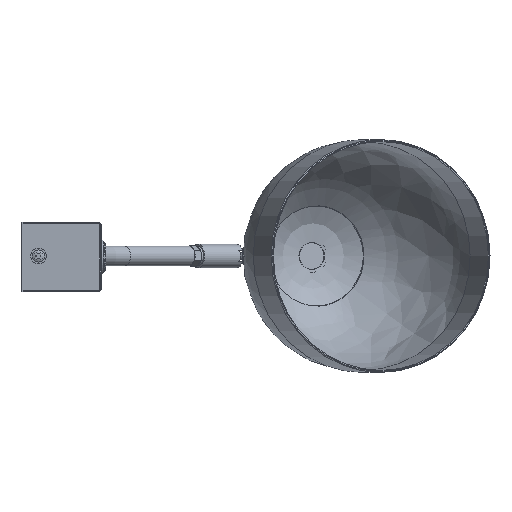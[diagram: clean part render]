
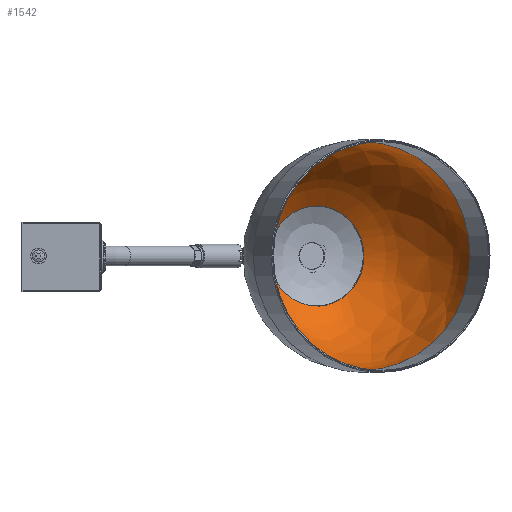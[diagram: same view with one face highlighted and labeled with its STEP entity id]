
A CAD part, front view. The second image highlights one B-rep face of the part: STEP entity #1542.
In plain terms, the highlighted free-form (B-spline) face has degree [2, 2] with [3, 9] control points.
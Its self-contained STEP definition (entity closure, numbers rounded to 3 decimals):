
#55=(
BOUNDED_SURFACE()
B_SPLINE_SURFACE(2,2,((#2950,#2951,#2952,#2953,#2954,#2955,#2956,#2957,
#2958),(#2959,#2960,#2961,#2962,#2963,#2964,#2965,#2966,#2967),(#2968,#2969,
#2970,#2971,#2972,#2973,#2974,#2975,#2976)),.UNSPECIFIED.,.F.,.T.,.F.)
B_SPLINE_SURFACE_WITH_KNOTS((3,3),(3,2,2,2,3),(0.,0.893),
(-3.142,-1.571,0.,1.571,3.142),
 .UNSPECIFIED.)
GEOMETRIC_REPRESENTATION_ITEM()
RATIONAL_B_SPLINE_SURFACE(((1.,0.707,1.,0.707,1.,
0.707,1.,0.707,1.),(0.902,0.638,
0.902,0.638,0.902,0.638,
0.902,0.638,0.902),(1.,0.707,
1.,0.707,1.,0.707,1.,0.707,1.)))
REPRESENTATION_ITEM('')
SURFACE()
);
#239=FACE_OUTER_BOUND('',#351,.T.);
#351=EDGE_LOOP('',(#1301,#1302,#1303,#1304,#1305));
#651=CIRCLE('',#1714,25.18);
#654=CIRCLE('',#1719,57.832);
#655=CIRCLE('',#1720,57.832);
#656=CIRCLE('',#1721,87.634);
#765=VERTEX_POINT('',#2938);
#767=VERTEX_POINT('',#2945);
#768=VERTEX_POINT('',#2947);
#949=EDGE_CURVE('',#765,#765,#651,.T.);
#953=EDGE_CURVE('',#767,#768,#654,.T.);
#954=EDGE_CURVE('',#768,#767,#655,.T.);
#955=EDGE_CURVE('',#768,#765,#656,.T.);
#1301=ORIENTED_EDGE('',*,*,#954,.F.);
#1302=ORIENTED_EDGE('',*,*,#955,.T.);
#1303=ORIENTED_EDGE('',*,*,#949,.T.);
#1304=ORIENTED_EDGE('',*,*,#955,.F.);
#1305=ORIENTED_EDGE('',*,*,#953,.F.);
#1542=ADVANCED_FACE('',(#239),#55,.T.);
#1714=AXIS2_PLACEMENT_3D('',#2939,#2064,#2065);
#1719=AXIS2_PLACEMENT_3D('',#2948,#2075,#2076);
#1720=AXIS2_PLACEMENT_3D('',#2949,#2077,#2078);
#1721=AXIS2_PLACEMENT_3D('',#2977,#2079,#2080);
#2064=DIRECTION('center_axis',(-0.342,0.94,0.));
#2065=DIRECTION('ref_axis',(0.94,0.342,0.));
#2075=DIRECTION('center_axis',(-0.342,0.94,0.));
#2076=DIRECTION('ref_axis',(0.94,0.342,0.));
#2077=DIRECTION('center_axis',(-0.342,0.94,0.));
#2078=DIRECTION('ref_axis',(0.94,0.342,0.));
#2079=DIRECTION('center_axis',(0.94,0.342,0.));
#2080=DIRECTION('ref_axis',(0.,0.,-1.));
#2938=CARTESIAN_POINT('',(-1.502,377.92,-25.18));
#2939=CARTESIAN_POINT('Origin',(-1.502,377.92,0.));
#2945=CARTESIAN_POINT('',(76.181,333.575,0.));
#2947=CARTESIAN_POINT('',(21.837,313.795,-57.832));
#2948=CARTESIAN_POINT('Origin',(21.837,313.795,0.));
#2949=CARTESIAN_POINT('Origin',(21.837,313.795,0.));
#2950=CARTESIAN_POINT('Ctrl Pts',(21.837,313.795,-57.832));
#2951=CARTESIAN_POINT('Ctrl Pts',(-32.507,294.016,-57.832));
#2952=CARTESIAN_POINT('Ctrl Pts',(-32.507,294.016,0.));
#2953=CARTESIAN_POINT('Ctrl Pts',(-32.507,294.016,57.832));
#2954=CARTESIAN_POINT('Ctrl Pts',(21.837,313.795,57.832));
#2955=CARTESIAN_POINT('Ctrl Pts',(76.181,333.575,57.832));
#2956=CARTESIAN_POINT('Ctrl Pts',(76.181,333.575,0.));
#2957=CARTESIAN_POINT('Ctrl Pts',(76.181,333.575,-57.832));
#2958=CARTESIAN_POINT('Ctrl Pts',(21.837,313.795,-57.832));
#2959=CARTESIAN_POINT('Ctrl Pts',(7.496,353.198,-57.832));
#2960=CARTESIAN_POINT('Ctrl Pts',(-46.848,333.418,-57.832));
#2961=CARTESIAN_POINT('Ctrl Pts',(-46.848,333.418,0.));
#2962=CARTESIAN_POINT('Ctrl Pts',(-46.848,333.418,57.832));
#2963=CARTESIAN_POINT('Ctrl Pts',(7.496,353.198,57.832));
#2964=CARTESIAN_POINT('Ctrl Pts',(61.839,372.977,57.832));
#2965=CARTESIAN_POINT('Ctrl Pts',(61.839,372.977,0.));
#2966=CARTESIAN_POINT('Ctrl Pts',(61.839,372.977,-57.832));
#2967=CARTESIAN_POINT('Ctrl Pts',(7.496,353.198,-57.832));
#2968=CARTESIAN_POINT('Ctrl Pts',(-1.502,377.92,-25.18));
#2969=CARTESIAN_POINT('Ctrl Pts',(-25.164,369.307,-25.18));
#2970=CARTESIAN_POINT('Ctrl Pts',(-25.164,369.307,0.));
#2971=CARTESIAN_POINT('Ctrl Pts',(-25.164,369.307,25.18));
#2972=CARTESIAN_POINT('Ctrl Pts',(-1.502,377.92,25.18));
#2973=CARTESIAN_POINT('Ctrl Pts',(22.159,386.532,25.18));
#2974=CARTESIAN_POINT('Ctrl Pts',(22.159,386.532,0.));
#2975=CARTESIAN_POINT('Ctrl Pts',(22.159,386.532,-25.18));
#2976=CARTESIAN_POINT('Ctrl Pts',(-1.502,377.92,-25.18));
#2977=CARTESIAN_POINT('Origin',(21.837,313.795,29.803));
